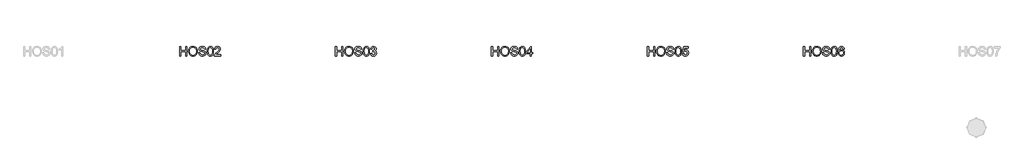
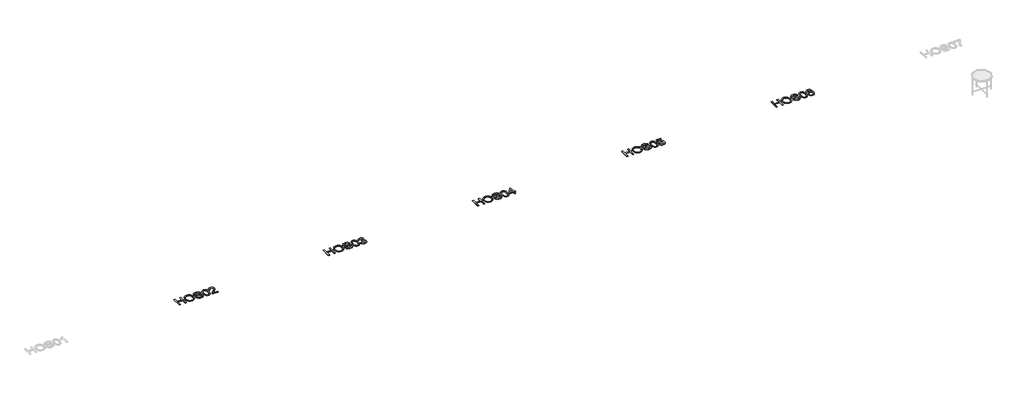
# One storey, part 2 of 6: 5 proxies.
"""IFC4 building model written with IfcOpenShell, lengths in millimetres."""

from ifc_helpers import new_model, si_unit, origin, origin_with_axes, place, context, project, spatial, polyline, outline, extrude, element, save

model = new_model("IFC4")

# Units and contexts
model_context = context("Model", 3, world=origin())
ifc_project = project(units=[si_unit("LENGTHUNIT", "METRE", prefix="MILLI")], contexts=[model_context])

# Site, building, storey
site = spatial("IfcSite", under=ifc_project)
building = spatial("IfcBuilding", under=site)
storey = spatial("IfcBuildingStorey", under=building, Name="Marelli - Linha HOSPITALITY - Planta Baixa", Elevation=0.0)

# Proxies
placement = place(None, origin())
element("IfcBuildingElementProxy", 1, Name="300mm Arial", ObjectType="300mm Arial", at=placement, inside=storey, context=model_context, shape_type="SweptSolid", body=[
    extrude(outline(polyline([(252.0864583, -4780.5663201), (252.0864583, -4479.1973896), (289.7575746, -4479.1973896), (289.7575746, -4601.6285176), (449.8598189, -4601.6285176), (449.8598189, -4479.1973896), (487.5309352, -4479.1973896), (487.5309352, -4780.5663201), (449.8598189, -4780.5663201), (449.8598189, -4639.2996339), (289.7575746, -4639.2996339), (289.7575746, -4780.5663201), (252.0864583, -4780.5663201)])), origin_with_axes(), (0.0, 0.0, 1.0), 10.0),
    extrude(outline(polyline([(539.3287202, -4633.8549804), (541.8395148, -4598.5061192), (549.3718986, -4567.213157), (561.9258717, -4539.9760937), (579.501434, -4516.7949295), (601.0455234, -4498.2858666), (625.5050775, -4485.0651074), (652.8800965, -4477.1326519), (683.1705803, -4474.4885001), (722.6995006, -4479.454907), (758.1449309, -4494.3541278), (787.5754905, -4518.1376988), (809.059799, -4549.7571563), (822.1931862, -4587.68579), (826.570982, -4630.3968896), (821.96326, -4673.6782064), (808.140094, -4712.140269), (785.8648392, -4743.8149087), (755.9008507, -4766.733957), (720.7589231, -4780.6398965), (682.9498511, -4785.2752096), (642.8139254, -4780.1524528), (607.1661601, -4764.7841825), (577.8091768, -4740.5591531), (556.5455975, -4708.8661192), (543.6329395, -4672.3998164), (539.3287202, -4633.8549804)]), holes=[polyline([(576.9998365, -4634.2228624), (578.8829324, -4659.1974513), (584.5322203, -4681.3669401), (593.9477001, -4700.7313286), (607.1293719, -4717.2906169), (623.152932, -4730.5527628), (641.0940771, -4740.0257242), (660.952807, -4745.709501), (682.7291219, -4747.6040933), (704.8779172, -4745.6911069), (724.971172, -4739.9521478), (743.008886, -4730.3872159), (758.9910595, -4716.9963113), (772.0761622, -4700.0875351), (781.4226641, -4679.9689885), (787.0305653, -4656.6406715), (788.8998657, -4630.102584), (785.6992923, -4596.7540812), (776.0975722, -4567.9305269), (760.3430258, -4544.358488), (738.6839733, -4526.7645316), (712.5551546, -4515.8108452), (683.3913095, -4512.1596164), (662.371452, -4513.9185522), (642.8691077, -4519.1953595), (624.8842767, -4527.9900385), (608.4169588, -4540.302589), (594.6719678, -4556.7262208), (584.8541171, -4577.8541437), (578.9634066, -4603.6863575), (576.9998365, -4634.2228624)])]), origin_with_axes(), (0.0, 0.0, 1.0), 10.0),
    extrude(outline(polyline([(864.2420983, -4676.9707502), (901.9132146, -4676.9707502), (906.235828, -4697.8756446), (914.0533204, -4714.6786547), (926.2486086, -4728.0143771), (943.7046092, -4738.517408), (965.041765, -4745.332422), (988.8805183, -4747.6040933), (1009.8681861, -4745.884245), (1028.2438917, -4740.7247), (1043.1339155, -4732.5577197), (1053.6645376, -4721.8155654), (1059.9277286, -4709.4823216), (1062.0154589, -4696.5420724), (1060.4519604, -4683.932917), (1055.761465, -4673.0344129), (1046.2333213, -4663.7361954), (1030.1568781, -4655.9279001), (975.3056726, -4641.5437141), (939.2992224, -4632.0247675), (916.2606124, -4622.9656733), (897.5078277, -4610.2921386), (884.2180906, -4594.9330653), (876.2994307, -4577.2195472), (873.6598774, -4557.4826782), (876.9248301, -4535.4189555), (886.7196882, -4514.845155), (902.7869343, -4497.4075484), (924.8690511, -4484.7524077), (951.3749488, -4477.054477), (980.713538, -4474.4885001), (1012.4985423, -4477.1740386), (1040.3104212, -4485.2306543), (1063.1558931, -4498.4928003), (1080.0416767, -4516.7949295), (1090.7286486, -4538.9966079), (1094.9776857, -4563.9574013), (1057.3065694, -4563.9574013), (1050.3903879, -4541.4798114), (1035.9694136, -4525.2562154), (1013.4366414, -4515.4337661), (982.1850659, -4512.1596164), (950.1977265, -4515.3969779), (928.2535655, -4525.1090626), (915.5616366, -4539.4012781), (911.3309937, -4556.3790322), (914.3292319, -4570.8551887), (923.3239467, -4582.4986539), (944.587526, -4592.9097143), (984.8338163, -4603.541504), (1026.3676936, -4613.6398648), (1051.4940338, -4622.4506385), (1072.9691453, -4636.1174547), (1087.9511396, -4652.9848441), (1096.7527163, -4672.868866), (1099.6865752, -4695.5855792), (1096.3112579, -4718.8081301), (1086.185306, -4740.6511236), (1069.7225867, -4759.4498935), (1047.3369673, -4773.539774), (1020.4172023, -4782.3413507), (990.3520462, -4785.2752096), (953.4442851, -4782.1114244), (923.0664293, -4772.620069), (898.8689911, -4756.764355), (880.5024825, -4734.5074943), (868.7118645, -4707.3945912), (864.2420983, -4676.9707502)])), origin_with_axes(), (0.0, 0.0, 1.0), 10.0),
    extrude(outline(polyline([(1142.066581, -4632.309876), (1144.8348931, -4584.0713494), (1153.1398291, -4545.6000897), (1166.8986157, -4516.3074859), (1186.0284795, -4495.6049266), (1210.6673761, -4483.2992739), (1240.9532614, -4479.1973896), (1264.1666152, -4481.6254108), (1284.951948, -4488.9094743), (1302.3343722, -4500.7644716), (1315.3390008, -4516.9052941), (1325.16145, -4537.1939862), (1332.9973365, -4561.4925919), (1338.1292904, -4592.3486943), (1339.8399417, -4632.309876), (1337.0992208, -4680.2724911), (1328.8770582, -4718.6517803), (1315.201045, -4747.9719753), (1296.0987724, -4768.757308), (1271.4046935, -4781.1457342), (1240.9532614, -4785.2752096), (1220.2047168, -4783.4817849), (1201.8106171, -4778.1015107), (1185.7709621, -4769.1343871), (1172.0857519, -4756.580414), (1158.9523646, -4733.8866934), (1149.5713738, -4705.6103636), (1143.9427792, -4671.7514244), (1142.066581, -4632.309876)]), holes=[polyline([(1179.7376974, -4632.2362996), (1184.1522813, -4691.492892), (1189.6705112, -4711.7608907), (1197.3960331, -4725.788691), (1217.1145081, -4742.1502427), (1240.9532614, -4747.6040933), (1264.7920146, -4742.1318486), (1284.5104896, -4725.7151146), (1292.2360115, -4711.6643216), (1297.7542414, -4691.4009215), (1302.1688253, -4632.2362996), (1297.9013942, -4574.3132795), (1292.5671053, -4554.1119594), (1285.0991008, -4539.750766), (1265.417414, -4522.589071), (1240.511803, -4516.8685059), (1216.9305671, -4521.9084893), (1197.9846443, -4537.0284393), (1190.001605, -4552.6634241), (1184.2994341, -4573.7430624), (1179.7376974, -4632.2362996)])]), origin_with_axes(), (0.0, 0.0, 1.0), 10.0),
    extrude(outline(polyline([(1565.8666395, -4742.8952038), (1565.8666395, -4780.5663201), (1368.0932789, -4780.5663201), (1372.1399808, -4754.5938512), (1381.4290012, -4734.2959621), (1395.0222409, -4714.6050783), (1414.6855336, -4693.9944896), (1442.1847127, -4670.9374855), (1482.8356732, -4634.8298677), (1507.2262495, -4608.1768171), (1519.4215376, -4586.5453558), (1523.4866336, -4565.5025057), (1519.6514638, -4546.6393564), (1508.1459544, -4530.9583863), (1490.4600275, -4520.390976), (1468.0836052, -4516.8685059), (1444.5851427, -4520.3082026), (1426.3289987, -4530.6272925), (1414.5475778, -4547.0164354), (1410.4732847, -4568.6662908), (1372.8021684, -4563.9574013), (1381.934839, -4527.5186897), (1390.4811976, -4512.9827524), (1401.680905, -4500.9024273), (1415.276444, -4491.4064733), (1431.0102971, -4484.623649), (1468.8929456, -4479.1973896), (1489.0827693, -4480.7057058), (1507.0515055, -4485.2306543), (1522.7991542, -4492.7722352), (1536.3257153, -4503.3304485), (1547.1897304, -4516.1235449), (1554.9497413, -4530.3697751), (1559.6057478, -4546.0691393), (1561.15775, -4563.2216373), (1559.4838869, -4581.238658), (1554.4622976, -4598.942979), (1545.5503563, -4616.9508027), (1532.2054369, -4635.8783314), (1510.9326606, -4658.4754829), (1478.2371482, -4687.4921753), (1434.9006492, -4723.7285518), (1417.904501, -4742.8952038), (1565.8666395, -4742.8952038)])), origin_with_axes(), (0.0, 0.0, 1.0), 10.0),
])
element("IfcBuildingElementProxy", 2, Name="300mm Arial", ObjectType="300mm Arial", at=placement, inside=storey, context=model_context, shape_type="SweptSolid", body=[
    extrude(outline(polyline([(5252.0864583, -4780.5663201), (5252.0864583, -4479.1973896), (5289.7575746, -4479.1973896), (5289.7575746, -4601.6285176), (5449.8598189, -4601.6285176), (5449.8598189, -4479.1973896), (5487.5309352, -4479.1973896), (5487.5309352, -4780.5663201), (5449.8598189, -4780.5663201), (5449.8598189, -4639.2996339), (5289.7575746, -4639.2996339), (5289.7575746, -4780.5663201), (5252.0864583, -4780.5663201)])), origin_with_axes(), (0.0, 0.0, 1.0), 10.0),
    extrude(outline(polyline([(5539.3287202, -4633.8549804), (5541.8395148, -4598.5061192), (5549.3718986, -4567.213157), (5561.9258717, -4539.9760937), (5579.501434, -4516.7949295), (5601.0455234, -4498.2858666), (5625.5050775, -4485.0651074), (5652.8800965, -4477.1326519), (5683.1705803, -4474.4885001), (5722.6995006, -4479.454907), (5758.1449309, -4494.3541278), (5787.5754905, -4518.1376988), (5809.059799, -4549.7571563), (5822.1931862, -4587.68579), (5826.570982, -4630.3968896), (5821.96326, -4673.6782064), (5808.140094, -4712.140269), (5785.8648392, -4743.8149087), (5755.9008507, -4766.733957), (5720.7589231, -4780.6398965), (5682.9498511, -4785.2752096), (5642.8139254, -4780.1524528), (5607.1661601, -4764.7841825), (5577.8091768, -4740.5591531), (5556.5455975, -4708.8661192), (5543.6329395, -4672.3998164), (5539.3287202, -4633.8549804)]), holes=[polyline([(5576.9998365, -4634.2228624), (5578.8829324, -4659.1974513), (5584.5322203, -4681.3669401), (5593.9477001, -4700.7313286), (5607.1293719, -4717.2906169), (5623.152932, -4730.5527628), (5641.0940771, -4740.0257242), (5660.952807, -4745.709501), (5682.7291219, -4747.6040933), (5704.8779172, -4745.6911069), (5724.971172, -4739.9521478), (5743.008886, -4730.3872159), (5758.9910595, -4716.9963113), (5772.0761622, -4700.0875351), (5781.4226641, -4679.9689885), (5787.0305653, -4656.6406715), (5788.8998657, -4630.102584), (5785.6992923, -4596.7540812), (5776.0975722, -4567.9305269), (5760.3430258, -4544.358488), (5738.6839733, -4526.7645316), (5712.5551546, -4515.8108452), (5683.3913095, -4512.1596164), (5662.371452, -4513.9185522), (5642.8691077, -4519.1953595), (5624.8842767, -4527.9900385), (5608.4169588, -4540.302589), (5594.6719678, -4556.7262208), (5584.8541171, -4577.8541437), (5578.9634066, -4603.6863575), (5576.9998365, -4634.2228624)])]), origin_with_axes(), (0.0, 0.0, 1.0), 10.0),
    extrude(outline(polyline([(5864.2420983, -4676.9707502), (5901.9132146, -4676.9707502), (5906.235828, -4697.8756446), (5914.0533204, -4714.6786547), (5926.2486086, -4728.0143771), (5943.7046092, -4738.517408), (5965.041765, -4745.332422), (5988.8805183, -4747.6040933), (6009.8681861, -4745.884245), (6028.2438917, -4740.7247), (6043.1339155, -4732.5577197), (6053.6645376, -4721.8155654), (6059.9277286, -4709.4823216), (6062.0154589, -4696.5420724), (6060.4519604, -4683.932917), (6055.761465, -4673.0344129), (6046.2333213, -4663.7361954), (6030.1568781, -4655.9279001), (5975.3056726, -4641.5437141), (5939.2992224, -4632.0247675), (5916.2606124, -4622.9656733), (5897.5078277, -4610.2921386), (5884.2180906, -4594.9330653), (5876.2994307, -4577.2195472), (5873.6598774, -4557.4826782), (5876.9248301, -4535.4189555), (5886.7196882, -4514.845155), (5902.7869343, -4497.4075484), (5924.8690511, -4484.7524077), (5951.3749488, -4477.054477), (5980.713538, -4474.4885001), (6012.4985423, -4477.1740386), (6040.3104212, -4485.2306543), (6063.1558931, -4498.4928003), (6080.0416767, -4516.7949295), (6090.7286486, -4538.9966079), (6094.9776857, -4563.9574013), (6057.3065694, -4563.9574013), (6050.3903879, -4541.4798114), (6035.9694136, -4525.2562154), (6013.4366414, -4515.4337661), (5982.1850659, -4512.1596164), (5950.1977265, -4515.3969779), (5928.2535655, -4525.1090626), (5915.5616366, -4539.4012781), (5911.3309937, -4556.3790322), (5914.3292319, -4570.8551887), (5923.3239467, -4582.4986539), (5944.587526, -4592.9097143), (5984.8338163, -4603.541504), (6026.3676936, -4613.6398648), (6051.4940338, -4622.4506385), (6072.9691453, -4636.1174547), (6087.9511396, -4652.9848441), (6096.7527163, -4672.868866), (6099.6865752, -4695.5855792), (6096.3112579, -4718.8081301), (6086.185306, -4740.6511236), (6069.7225867, -4759.4498935), (6047.3369673, -4773.539774), (6020.4172023, -4782.3413507), (5990.3520462, -4785.2752096), (5953.4442851, -4782.1114244), (5923.0664293, -4772.620069), (5898.8689911, -4756.764355), (5880.5024825, -4734.5074943), (5868.7118645, -4707.3945912), (5864.2420983, -4676.9707502)])), origin_with_axes(), (0.0, 0.0, 1.0), 10.0),
    extrude(outline(polyline([(6142.066581, -4632.309876), (6144.8348931, -4584.0713494), (6153.1398291, -4545.6000897), (6166.8986157, -4516.3074859), (6186.0284795, -4495.6049266), (6210.6673761, -4483.2992739), (6240.9532614, -4479.1973896), (6264.1666152, -4481.6254108), (6284.951948, -4488.9094743), (6302.3343722, -4500.7644716), (6315.3390008, -4516.9052941), (6325.16145, -4537.1939862), (6332.9973365, -4561.4925919), (6338.1292904, -4592.3486943), (6339.8399417, -4632.309876), (6337.0992208, -4680.2724911), (6328.8770582, -4718.6517803), (6315.201045, -4747.9719753), (6296.0987724, -4768.757308), (6271.4046935, -4781.1457342), (6240.9532614, -4785.2752096), (6220.2047168, -4783.4817849), (6201.8106171, -4778.1015107), (6185.7709621, -4769.1343871), (6172.0857519, -4756.580414), (6158.9523646, -4733.8866934), (6149.5713738, -4705.6103636), (6143.9427792, -4671.7514244), (6142.066581, -4632.309876)]), holes=[polyline([(6179.7376974, -4632.2362996), (6184.1522813, -4691.492892), (6189.6705112, -4711.7608907), (6197.3960331, -4725.788691), (6217.1145081, -4742.1502427), (6240.9532614, -4747.6040933), (6264.7920146, -4742.1318486), (6284.5104896, -4725.7151146), (6292.2360115, -4711.6643216), (6297.7542414, -4691.4009215), (6302.1688253, -4632.2362996), (6297.9013942, -4574.3132795), (6292.5671053, -4554.1119594), (6285.0991008, -4539.750766), (6265.417414, -4522.589071), (6240.511803, -4516.8685059), (6216.9305671, -4521.9084893), (6197.9846443, -4537.0284393), (6190.001605, -4552.6634241), (6184.2994341, -4573.7430624), (6179.7376974, -4632.2362996)])]), origin_with_axes(), (0.0, 0.0, 1.0), 10.0),
    extrude(outline(polyline([(6372.8021684, -4700.5151979), (6410.4732847, -4695.8063084), (6418.9069795, -4719.4795148), (6431.2586175, -4735.4639875), (6448.135204, -4744.5690668), (6470.1437443, -4747.6040933), (6495.9690604, -4743.4286327), (6515.9082645, -4730.9022507), (6528.6553757, -4712.2138454), (6532.9044127, -4689.5523145), (6528.6921639, -4668.0404148), (6516.0554173, -4650.5936112), (6496.9255536, -4639.0329195), (6473.2339531, -4635.1793556), (6446.8200259, -4639.2996339), (6451.0138806, -4601.6285176), (6457.0471453, -4602.069976), (6479.6167057, -4599.3660433), (6499.7950332, -4591.2542454), (6514.0320664, -4577.5322469), (6518.7777441, -4557.997713), (6515.3380475, -4541.7281317), (6505.0189575, -4528.5303652), (6489.2736081, -4519.7839707), (6469.5551332, -4516.8685059), (6449.79987, -4519.8115619), (6433.6498504, -4528.6407298), (6421.8592325, -4543.3560096), (6415.1821743, -4563.9574013), (6377.511058, -4559.2485118), (6388.6027001, -4525.4217623), (6408.3395692, -4500.1666633), (6435.3421076, -4484.4397081), (6468.230758, -4479.1973896), (6491.9131614, -4481.7817606), (6513.6641844, -4489.5348737), (6532.0031018, -4501.76695), (6545.4491888, -4517.7882109), (6553.6989425, -4536.24669), (6556.4488604, -4555.790421), (6553.8368982, -4574.0005798), (6546.0010118, -4590.5184814), (6533.0515655, -4604.5899677), (6515.0989242, -4615.4608806), (6538.68016, -4624.9890243), (6556.1545548, -4641.2126203), (6566.9702855, -4663.2487518), (6570.575529, -4690.2145021), (6568.7729073, -4709.3259717), (6563.3650419, -4726.9291252), (6554.351933, -4743.0239625), (6541.7335806, -4757.6104836), (6526.3607117, -4769.7138012), (6509.0840535, -4778.3590281), (6489.903606, -4783.5461642), (6468.8193692, -4785.2752096), (6449.7630818, -4783.7990831), (6432.3990516, -4779.3707036), (6416.7272786, -4771.9900711), (6402.7477628, -4761.6571855), (6391.0261228, -4748.9790523), (6382.127977, -4734.5626766), (6376.0533256, -4718.4080585), (6372.8021684, -4700.5151979)])), origin_with_axes(), (0.0, 0.0, 1.0), 10.0),
])
element("IfcBuildingElementProxy", 3, Name="300mm Arial", ObjectType="300mm Arial", at=placement, inside=storey, context=model_context, shape_type="SweptSolid", body=[
    extrude(outline(polyline([(15252.0864583, -4780.5663201), (15252.0864583, -4479.1973896), (15289.7575746, -4479.1973896), (15289.7575746, -4601.6285176), (15449.8598189, -4601.6285176), (15449.8598189, -4479.1973896), (15487.5309352, -4479.1973896), (15487.5309352, -4780.5663201), (15449.8598189, -4780.5663201), (15449.8598189, -4639.2996339), (15289.7575746, -4639.2996339), (15289.7575746, -4780.5663201), (15252.0864583, -4780.5663201)])), origin_with_axes(), (0.0, 0.0, 1.0), 10.0),
    extrude(outline(polyline([(15539.3287202, -4633.8549804), (15541.8395148, -4598.5061192), (15549.3718986, -4567.213157), (15561.9258717, -4539.9760937), (15579.501434, -4516.7949295), (15601.0455234, -4498.2858666), (15625.5050775, -4485.0651074), (15652.8800965, -4477.1326519), (15683.1705803, -4474.4885001), (15722.6995006, -4479.454907), (15758.1449309, -4494.3541278), (15787.5754905, -4518.1376988), (15809.059799, -4549.7571563), (15822.1931862, -4587.68579), (15826.570982, -4630.3968896), (15821.96326, -4673.6782064), (15808.140094, -4712.140269), (15785.8648392, -4743.8149087), (15755.9008507, -4766.733957), (15720.7589231, -4780.6398965), (15682.9498511, -4785.2752096), (15642.8139254, -4780.1524528), (15607.1661601, -4764.7841825), (15577.8091768, -4740.5591531), (15556.5455975, -4708.8661192), (15543.6329395, -4672.3998164), (15539.3287202, -4633.8549804)]), holes=[polyline([(15576.9998365, -4634.2228624), (15578.8829324, -4659.1974513), (15584.5322203, -4681.3669401), (15593.9477001, -4700.7313286), (15607.1293719, -4717.2906169), (15623.152932, -4730.5527628), (15641.0940771, -4740.0257242), (15660.952807, -4745.709501), (15682.7291219, -4747.6040933), (15704.8779172, -4745.6911069), (15724.971172, -4739.9521478), (15743.008886, -4730.3872159), (15758.9910595, -4716.9963113), (15772.0761622, -4700.0875351), (15781.4226641, -4679.9689885), (15787.0305653, -4656.6406715), (15788.8998657, -4630.102584), (15785.6992923, -4596.7540812), (15776.0975722, -4567.9305269), (15760.3430258, -4544.358488), (15738.6839733, -4526.7645316), (15712.5551546, -4515.8108452), (15683.3913095, -4512.1596164), (15662.371452, -4513.9185522), (15642.8691077, -4519.1953595), (15624.8842767, -4527.9900385), (15608.4169588, -4540.302589), (15594.6719678, -4556.7262208), (15584.8541171, -4577.8541437), (15578.9634066, -4603.6863575), (15576.9998365, -4634.2228624)])]), origin_with_axes(), (0.0, 0.0, 1.0), 10.0),
    extrude(outline(polyline([(15864.2420983, -4676.9707502), (15901.9132146, -4676.9707502), (15906.235828, -4697.8756446), (15914.0533204, -4714.6786547), (15926.2486086, -4728.0143771), (15943.7046092, -4738.517408), (15965.041765, -4745.332422), (15988.8805183, -4747.6040933), (16009.8681861, -4745.884245), (16028.2438917, -4740.7247), (16043.1339155, -4732.5577197), (16053.6645376, -4721.8155654), (16059.9277286, -4709.4823216), (16062.0154589, -4696.5420724), (16060.4519604, -4683.932917), (16055.761465, -4673.0344129), (16046.2333213, -4663.7361954), (16030.1568781, -4655.9279001), (15975.3056726, -4641.5437141), (15939.2992224, -4632.0247675), (15916.2606124, -4622.9656733), (15897.5078277, -4610.2921386), (15884.2180906, -4594.9330653), (15876.2994307, -4577.2195472), (15873.6598774, -4557.4826782), (15876.9248301, -4535.4189555), (15886.7196882, -4514.845155), (15902.7869343, -4497.4075484), (15924.8690511, -4484.7524077), (15951.3749488, -4477.054477), (15980.713538, -4474.4885001), (16012.4985423, -4477.1740386), (16040.3104212, -4485.2306543), (16063.1558931, -4498.4928003), (16080.0416767, -4516.7949295), (16090.7286486, -4538.9966079), (16094.9776857, -4563.9574013), (16057.3065694, -4563.9574013), (16050.3903879, -4541.4798114), (16035.9694136, -4525.2562154), (16013.4366414, -4515.4337661), (15982.1850659, -4512.1596164), (15950.1977265, -4515.3969779), (15928.2535655, -4525.1090626), (15915.5616366, -4539.4012781), (15911.3309937, -4556.3790322), (15914.3292319, -4570.8551887), (15923.3239467, -4582.4986539), (15944.587526, -4592.9097143), (15984.8338163, -4603.541504), (16026.3676936, -4613.6398648), (16051.4940338, -4622.4506385), (16072.9691453, -4636.1174547), (16087.9511396, -4652.9848441), (16096.7527163, -4672.868866), (16099.6865752, -4695.5855792), (16096.3112579, -4718.8081301), (16086.185306, -4740.6511236), (16069.7225867, -4759.4498935), (16047.3369673, -4773.539774), (16020.4172023, -4782.3413507), (15990.3520462, -4785.2752096), (15953.4442851, -4782.1114244), (15923.0664293, -4772.620069), (15898.8689911, -4756.764355), (15880.5024825, -4734.5074943), (15868.7118645, -4707.3945912), (15864.2420983, -4676.9707502)])), origin_with_axes(), (0.0, 0.0, 1.0), 10.0),
    extrude(outline(polyline([(16142.066581, -4632.309876), (16144.8348931, -4584.0713494), (16153.1398291, -4545.6000897), (16166.8986157, -4516.3074859), (16186.0284795, -4495.6049266), (16210.6673761, -4483.2992739), (16240.9532614, -4479.1973896), (16264.1666152, -4481.6254108), (16284.951948, -4488.9094743), (16302.3343722, -4500.7644716), (16315.3390008, -4516.9052941), (16325.16145, -4537.1939862), (16332.9973365, -4561.4925919), (16338.1292904, -4592.3486943), (16339.8399417, -4632.309876), (16337.0992208, -4680.2724911), (16328.8770582, -4718.6517803), (16315.201045, -4747.9719753), (16296.0987724, -4768.757308), (16271.4046935, -4781.1457342), (16240.9532614, -4785.2752096), (16220.2047168, -4783.4817849), (16201.8106171, -4778.1015107), (16185.7709621, -4769.1343871), (16172.0857519, -4756.580414), (16158.9523646, -4733.8866934), (16149.5713738, -4705.6103636), (16143.9427792, -4671.7514244), (16142.066581, -4632.309876)]), holes=[polyline([(16179.7376974, -4632.2362996), (16184.1522813, -4691.492892), (16189.6705112, -4711.7608907), (16197.3960331, -4725.788691), (16217.1145081, -4742.1502427), (16240.9532614, -4747.6040933), (16264.7920146, -4742.1318486), (16284.5104896, -4725.7151146), (16292.2360115, -4711.6643216), (16297.7542414, -4691.4009215), (16302.1688253, -4632.2362996), (16297.9013942, -4574.3132795), (16292.5671053, -4554.1119594), (16285.0991008, -4539.750766), (16265.417414, -4522.589071), (16240.511803, -4516.8685059), (16216.9305671, -4521.9084893), (16197.9846443, -4537.0284393), (16190.001605, -4552.6634241), (16184.2994341, -4573.7430624), (16179.7376974, -4632.2362996)])]), origin_with_axes(), (0.0, 0.0, 1.0), 10.0),
    extrude(outline(polyline([(16372.8021684, -4700.5151979), (16410.4732847, -4695.8063084), (16417.3894662, -4718.421854), (16429.4559957, -4734.6178589), (16446.6176908, -4744.3575347), (16468.8193692, -4747.6040933), (16495.8219076, -4743.0883418), (16516.0554173, -4729.5410873), (16528.6921639, -4708.5258284), (16532.9044127, -4681.6060634), (16528.9588783, -4656.2589939), (16517.1222751, -4636.8716128), (16497.3026326, -4624.56596), (16469.4079804, -4620.4640758), (16451.1334422, -4622.1011506), (16436.335389, -4627.0123753), (16415.1821743, -4644.0085235), (16377.511058, -4639.2996339), (16410.4732847, -4483.9062792), (16556.4488604, -4483.9062792), (16556.4488604, -4521.5773955), (16440.9339139, -4521.5773955), (16424.8206825, -4604.5715736), (16451.7312505, -4588.237613), (16479.9294054, -4582.7929595), (16498.2752207, -4584.4806181), (16515.1265153, -4589.5435941), (16530.4832893, -4597.9818873), (16544.3455428, -4609.7954979), (16555.8211618, -4624.2624574), (16564.0180325, -4640.6607973), (16568.9361549, -4658.9905177), (16570.575529, -4679.2516186), (16564.671023, -4716.9227349), (16557.2903905, -4733.716548), (16546.9575049, -4749.1491977), (16531.304126, -4764.9543279), (16513.038785, -4776.2437066), (16492.1614818, -4783.0173339), (16468.6722164, -4785.2752096), (16431.6724847, -4779.4718711), (16415.9938139, -4772.217698), (16402.1959398, -4762.0618557), (16390.7157223, -4749.5101819), (16381.9900213, -4735.0685143), (16372.8021684, -4700.5151979)])), origin_with_axes(), (0.0, 0.0, 1.0), 10.0),
])
element("IfcBuildingElementProxy", 4, Name="300mm Arial", ObjectType="300mm Arial", at=placement, inside=storey, context=model_context, shape_type="SweptSolid", body=[
    extrude(outline(polyline([(20252.0864583, -4780.5663201), (20252.0864583, -4479.1973896), (20289.7575746, -4479.1973896), (20289.7575746, -4601.6285176), (20449.8598189, -4601.6285176), (20449.8598189, -4479.1973896), (20487.5309352, -4479.1973896), (20487.5309352, -4780.5663201), (20449.8598189, -4780.5663201), (20449.8598189, -4639.2996339), (20289.7575746, -4639.2996339), (20289.7575746, -4780.5663201), (20252.0864583, -4780.5663201)])), origin_with_axes(), (0.0, 0.0, 1.0), 10.0),
    extrude(outline(polyline([(20539.3287202, -4633.8549804), (20541.8395148, -4598.5061192), (20549.3718986, -4567.213157), (20561.9258717, -4539.9760937), (20579.501434, -4516.7949295), (20601.0455234, -4498.2858666), (20625.5050775, -4485.0651074), (20652.8800965, -4477.1326519), (20683.1705803, -4474.4885001), (20722.6995006, -4479.454907), (20758.1449309, -4494.3541278), (20787.5754905, -4518.1376988), (20809.059799, -4549.7571563), (20822.1931862, -4587.68579), (20826.570982, -4630.3968896), (20821.96326, -4673.6782064), (20808.140094, -4712.140269), (20785.8648392, -4743.8149087), (20755.9008507, -4766.733957), (20720.7589231, -4780.6398965), (20682.9498511, -4785.2752096), (20642.8139254, -4780.1524528), (20607.1661601, -4764.7841825), (20577.8091768, -4740.5591531), (20556.5455975, -4708.8661192), (20543.6329395, -4672.3998164), (20539.3287202, -4633.8549804)]), holes=[polyline([(20576.9998365, -4634.2228624), (20578.8829324, -4659.1974513), (20584.5322203, -4681.3669401), (20593.9477001, -4700.7313286), (20607.1293719, -4717.2906169), (20623.152932, -4730.5527628), (20641.0940771, -4740.0257242), (20660.952807, -4745.709501), (20682.7291219, -4747.6040933), (20704.8779172, -4745.6911069), (20724.971172, -4739.9521478), (20743.008886, -4730.3872159), (20758.9910595, -4716.9963113), (20772.0761622, -4700.0875351), (20781.4226641, -4679.9689885), (20787.0305653, -4656.6406715), (20788.8998657, -4630.102584), (20785.6992923, -4596.7540812), (20776.0975722, -4567.9305269), (20760.3430258, -4544.358488), (20738.6839733, -4526.7645316), (20712.5551546, -4515.8108452), (20683.3913095, -4512.1596164), (20662.371452, -4513.9185522), (20642.8691077, -4519.1953595), (20624.8842767, -4527.9900385), (20608.4169588, -4540.302589), (20594.6719678, -4556.7262208), (20584.8541171, -4577.8541437), (20578.9634066, -4603.6863575), (20576.9998365, -4634.2228624)])]), origin_with_axes(), (0.0, 0.0, 1.0), 10.0),
    extrude(outline(polyline([(20864.2420983, -4676.9707502), (20901.9132146, -4676.9707502), (20906.235828, -4697.8756446), (20914.0533204, -4714.6786547), (20926.2486086, -4728.0143771), (20943.7046092, -4738.517408), (20965.041765, -4745.332422), (20988.8805183, -4747.6040933), (21009.8681861, -4745.884245), (21028.2438917, -4740.7247), (21043.1339155, -4732.5577197), (21053.6645376, -4721.8155654), (21059.9277286, -4709.4823216), (21062.0154589, -4696.5420724), (21060.4519604, -4683.932917), (21055.761465, -4673.0344129), (21046.2333213, -4663.7361954), (21030.1568781, -4655.9279001), (20975.3056726, -4641.5437141), (20939.2992224, -4632.0247675), (20916.2606124, -4622.9656733), (20897.5078277, -4610.2921386), (20884.2180906, -4594.9330653), (20876.2994307, -4577.2195472), (20873.6598774, -4557.4826782), (20876.9248301, -4535.4189555), (20886.7196882, -4514.845155), (20902.7869343, -4497.4075484), (20924.8690511, -4484.7524077), (20951.3749488, -4477.054477), (20980.713538, -4474.4885001), (21012.4985423, -4477.1740386), (21040.3104212, -4485.2306543), (21063.1558931, -4498.4928003), (21080.0416767, -4516.7949295), (21090.7286486, -4538.9966079), (21094.9776857, -4563.9574013), (21057.3065694, -4563.9574013), (21050.3903879, -4541.4798114), (21035.9694136, -4525.2562154), (21013.4366414, -4515.4337661), (20982.1850659, -4512.1596164), (20950.1977265, -4515.3969779), (20928.2535655, -4525.1090626), (20915.5616366, -4539.4012781), (20911.3309937, -4556.3790322), (20914.3292319, -4570.8551887), (20923.3239467, -4582.4986539), (20944.587526, -4592.9097143), (20984.8338163, -4603.541504), (21026.3676936, -4613.6398648), (21051.4940338, -4622.4506385), (21072.9691453, -4636.1174547), (21087.9511396, -4652.9848441), (21096.7527163, -4672.868866), (21099.6865752, -4695.5855792), (21096.3112579, -4718.8081301), (21086.185306, -4740.6511236), (21069.7225867, -4759.4498935), (21047.3369673, -4773.539774), (21020.4172023, -4782.3413507), (20990.3520462, -4785.2752096), (20953.4442851, -4782.1114244), (20923.0664293, -4772.620069), (20898.8689911, -4756.764355), (20880.5024825, -4734.5074943), (20868.7118645, -4707.3945912), (20864.2420983, -4676.9707502)])), origin_with_axes(), (0.0, 0.0, 1.0), 10.0),
    extrude(outline(polyline([(21142.066581, -4632.309876), (21144.8348931, -4584.0713494), (21153.1398291, -4545.6000897), (21166.8986157, -4516.3074859), (21186.0284795, -4495.6049266), (21210.6673761, -4483.2992739), (21240.9532614, -4479.1973896), (21264.1666152, -4481.6254108), (21284.951948, -4488.9094743), (21302.3343722, -4500.7644716), (21315.3390008, -4516.9052941), (21325.16145, -4537.1939862), (21332.9973365, -4561.4925919), (21338.1292904, -4592.3486943), (21339.8399417, -4632.309876), (21337.0992208, -4680.2724911), (21328.8770582, -4718.6517803), (21315.201045, -4747.9719753), (21296.0987724, -4768.757308), (21271.4046935, -4781.1457342), (21240.9532614, -4785.2752096), (21220.2047168, -4783.4817849), (21201.8106171, -4778.1015107), (21185.7709621, -4769.1343871), (21172.0857519, -4756.580414), (21158.9523646, -4733.8866934), (21149.5713738, -4705.6103636), (21143.9427792, -4671.7514244), (21142.066581, -4632.309876)]), holes=[polyline([(21179.7376974, -4632.2362996), (21184.1522813, -4691.492892), (21189.6705112, -4711.7608907), (21197.3960331, -4725.788691), (21217.1145081, -4742.1502427), (21240.9532614, -4747.6040933), (21264.7920146, -4742.1318486), (21284.5104896, -4725.7151146), (21292.2360115, -4711.6643216), (21297.7542414, -4691.4009215), (21302.1688253, -4632.2362996), (21297.9013942, -4574.3132795), (21292.5671053, -4554.1119594), (21285.0991008, -4539.750766), (21265.417414, -4522.589071), (21240.511803, -4516.8685059), (21216.9305671, -4521.9084893), (21197.9846443, -4537.0284393), (21190.001605, -4552.6634241), (21184.2994341, -4573.7430624), (21179.7376974, -4632.2362996)])]), origin_with_axes(), (0.0, 0.0, 1.0), 10.0),
    extrude(outline(polyline([(21565.8666395, -4559.2485118), (21528.1955232, -4563.9574013), (21522.1254703, -4545.2873901), (21513.9217018, -4532.5402789), (21496.8335831, -4520.7864492), (21476.1770091, -4516.8685059), (21458.6658261, -4519.1493743), (21442.1847127, -4525.9919794), (21428.0304529, -4540.4037566), (21416.4697613, -4560.2417932), (21408.6614659, -4588.3019923), (21405.7643952, -4627.3802573), (21420.8751481, -4609.7495127), (21438.9841394, -4597.3242983), (21459.0796933, -4589.9574613), (21480.1501346, -4587.501849), (21498.2499288, -4589.1803106), (21514.9517714, -4594.2156954), (21530.2556624, -4602.6080034), (21544.1616018, -4614.3572346), (21555.717695, -4628.7644133), (21563.9720472, -4645.1305635), (21568.9246586, -4663.4556854), (21570.575529, -4683.7397789), (21567.4669262, -4710.7147262), (21558.1411176, -4735.7215049), (21543.3706555, -4756.9299019), (21523.928092, -4772.5097044), (21500.696344, -4782.0838333), (21474.5583283, -4785.2752096), (21452.1014317, -4783.1598881), (21431.8196375, -4776.8139237), (21413.7129455, -4766.2373164), (21397.7813559, -4751.4300661), (21384.7928222, -4731.7667734), (21375.5152981, -4706.622039), (21369.9487837, -4675.9958629), (21368.0932789, -4639.8882451), (21370.1534181, -4599.4074301), (21376.3338356, -4564.8587122), (21386.6345314, -4536.2420915), (21401.0555057, -4513.557568), (21416.6858919, -4498.5249899), (21434.8086787, -4487.7874342), (21455.423866, -4481.3449008), (21478.5314538, -4479.1973896), (21511.5856511, -4484.5132844), (21538.0547607, -4500.4609689), (21556.5960132, -4525.7896443), (21565.8666395, -4559.2485118)]), holes=[polyline([(21405.7643952, -4683.1511677), (21407.944096, -4699.8438133), (21414.4831985, -4715.7823007), (21424.6367415, -4729.485905), (21437.6597642, -4739.4739012), (21453.3775224, -4745.5715453), (21471.6152723, -4747.6040933), (21496.4748982, -4743.3918445), (21516.0186291, -4730.7550979), (21528.6829668, -4710.8894702), (21532.9044127, -4684.9905777), (21528.7381491, -4660.1309519), (21516.2393583, -4641.1758321), (21496.3645336, -4629.173682), (21470.0701679, -4625.1729653), (21445.2473303, -4629.173682), (21424.4895887, -4641.1758321), (21410.4456936, -4659.6710994), (21405.7643952, -4683.1511677)])]), origin_with_axes(), (0.0, 0.0, 1.0), 10.0),
])
element("IfcBuildingElementProxy", 5, Name="300mm Arial", ObjectType="300mm Arial", at=placement, inside=storey, context=model_context, shape_type="SweptSolid", body=[
    extrude(outline(polyline([(10252.0864583, -4780.5663201), (10252.0864583, -4479.1973896), (10289.7575746, -4479.1973896), (10289.7575746, -4601.6285176), (10449.8598189, -4601.6285176), (10449.8598189, -4479.1973896), (10487.5309352, -4479.1973896), (10487.5309352, -4780.5663201), (10449.8598189, -4780.5663201), (10449.8598189, -4639.2996339), (10289.7575746, -4639.2996339), (10289.7575746, -4780.5663201), (10252.0864583, -4780.5663201)])), origin_with_axes(), (0.0, 0.0, 1.0), 10.0),
    extrude(outline(polyline([(10539.3287202, -4633.8549804), (10541.8395148, -4598.5061192), (10549.3718986, -4567.213157), (10561.9258717, -4539.9760937), (10579.501434, -4516.7949295), (10601.0455234, -4498.2858666), (10625.5050775, -4485.0651074), (10652.8800965, -4477.1326519), (10683.1705803, -4474.4885001), (10722.6995006, -4479.454907), (10758.1449309, -4494.3541278), (10787.5754905, -4518.1376988), (10809.059799, -4549.7571563), (10822.1931862, -4587.68579), (10826.570982, -4630.3968896), (10821.96326, -4673.6782064), (10808.140094, -4712.140269), (10785.8648392, -4743.8149087), (10755.9008507, -4766.733957), (10720.7589231, -4780.6398965), (10682.9498511, -4785.2752096), (10642.8139254, -4780.1524528), (10607.1661601, -4764.7841825), (10577.8091768, -4740.5591531), (10556.5455975, -4708.8661192), (10543.6329395, -4672.3998164), (10539.3287202, -4633.8549804)]), holes=[polyline([(10576.9998365, -4634.2228624), (10578.8829324, -4659.1974513), (10584.5322203, -4681.3669401), (10593.9477001, -4700.7313286), (10607.1293719, -4717.2906169), (10623.152932, -4730.5527628), (10641.0940771, -4740.0257242), (10660.952807, -4745.709501), (10682.7291219, -4747.6040933), (10704.8779172, -4745.6911069), (10724.971172, -4739.9521478), (10743.008886, -4730.3872159), (10758.9910595, -4716.9963113), (10772.0761622, -4700.0875351), (10781.4226641, -4679.9689885), (10787.0305653, -4656.6406715), (10788.8998657, -4630.102584), (10785.6992923, -4596.7540812), (10776.0975722, -4567.9305269), (10760.3430258, -4544.358488), (10738.6839733, -4526.7645316), (10712.5551546, -4515.8108452), (10683.3913095, -4512.1596164), (10662.371452, -4513.9185522), (10642.8691077, -4519.1953595), (10624.8842767, -4527.9900385), (10608.4169588, -4540.302589), (10594.6719678, -4556.7262208), (10584.8541171, -4577.8541437), (10578.9634066, -4603.6863575), (10576.9998365, -4634.2228624)])]), origin_with_axes(), (0.0, 0.0, 1.0), 10.0),
    extrude(outline(polyline([(10864.2420983, -4676.9707502), (10901.9132146, -4676.9707502), (10906.235828, -4697.8756446), (10914.0533204, -4714.6786547), (10926.2486086, -4728.0143771), (10943.7046092, -4738.517408), (10965.041765, -4745.332422), (10988.8805183, -4747.6040933), (11009.8681861, -4745.884245), (11028.2438917, -4740.7247), (11043.1339155, -4732.5577197), (11053.6645376, -4721.8155654), (11059.9277286, -4709.4823216), (11062.0154589, -4696.5420724), (11060.4519604, -4683.932917), (11055.761465, -4673.0344129), (11046.2333213, -4663.7361954), (11030.1568781, -4655.9279001), (10975.3056726, -4641.5437141), (10939.2992224, -4632.0247675), (10916.2606124, -4622.9656733), (10897.5078277, -4610.2921386), (10884.2180906, -4594.9330653), (10876.2994307, -4577.2195472), (10873.6598774, -4557.4826782), (10876.9248301, -4535.4189555), (10886.7196882, -4514.845155), (10902.7869343, -4497.4075484), (10924.8690511, -4484.7524077), (10951.3749488, -4477.054477), (10980.713538, -4474.4885001), (11012.4985423, -4477.1740386), (11040.3104212, -4485.2306543), (11063.1558931, -4498.4928003), (11080.0416767, -4516.7949295), (11090.7286486, -4538.9966079), (11094.9776857, -4563.9574013), (11057.3065694, -4563.9574013), (11050.3903879, -4541.4798114), (11035.9694136, -4525.2562154), (11013.4366414, -4515.4337661), (10982.1850659, -4512.1596164), (10950.1977265, -4515.3969779), (10928.2535655, -4525.1090626), (10915.5616366, -4539.4012781), (10911.3309937, -4556.3790322), (10914.3292319, -4570.8551887), (10923.3239467, -4582.4986539), (10944.587526, -4592.9097143), (10984.8338163, -4603.541504), (11026.3676936, -4613.6398648), (11051.4940338, -4622.4506385), (11072.9691453, -4636.1174547), (11087.9511396, -4652.9848441), (11096.7527163, -4672.868866), (11099.6865752, -4695.5855792), (11096.3112579, -4718.8081301), (11086.185306, -4740.6511236), (11069.7225867, -4759.4498935), (11047.3369673, -4773.539774), (11020.4172023, -4782.3413507), (10990.3520462, -4785.2752096), (10953.4442851, -4782.1114244), (10923.0664293, -4772.620069), (10898.8689911, -4756.764355), (10880.5024825, -4734.5074943), (10868.7118645, -4707.3945912), (10864.2420983, -4676.9707502)])), origin_with_axes(), (0.0, 0.0, 1.0), 10.0),
    extrude(outline(polyline([(11142.066581, -4632.309876), (11144.8348931, -4584.0713494), (11153.1398291, -4545.6000897), (11166.8986157, -4516.3074859), (11186.0284795, -4495.6049266), (11210.6673761, -4483.2992739), (11240.9532614, -4479.1973896), (11264.1666152, -4481.6254108), (11284.951948, -4488.9094743), (11302.3343722, -4500.7644716), (11315.3390008, -4516.9052941), (11325.16145, -4537.1939862), (11332.9973365, -4561.4925919), (11338.1292904, -4592.3486943), (11339.8399417, -4632.309876), (11337.0992208, -4680.2724911), (11328.8770582, -4718.6517803), (11315.201045, -4747.9719753), (11296.0987724, -4768.757308), (11271.4046935, -4781.1457342), (11240.9532614, -4785.2752096), (11220.2047168, -4783.4817849), (11201.8106171, -4778.1015107), (11185.7709621, -4769.1343871), (11172.0857519, -4756.580414), (11158.9523646, -4733.8866934), (11149.5713738, -4705.6103636), (11143.9427792, -4671.7514244), (11142.066581, -4632.309876)]), holes=[polyline([(11179.7376974, -4632.2362996), (11184.1522813, -4691.492892), (11189.6705112, -4711.7608907), (11197.3960331, -4725.788691), (11217.1145081, -4742.1502427), (11240.9532614, -4747.6040933), (11264.7920146, -4742.1318486), (11284.5104896, -4725.7151146), (11292.2360115, -4711.6643216), (11297.7542414, -4691.4009215), (11302.1688253, -4632.2362996), (11297.9013942, -4574.3132795), (11292.5671053, -4554.1119594), (11285.0991008, -4539.750766), (11265.417414, -4522.589071), (11240.511803, -4516.8685059), (11216.9305671, -4521.9084893), (11197.9846443, -4537.0284393), (11190.001605, -4552.6634241), (11184.2994341, -4573.7430624), (11179.7376974, -4632.2362996)])]), origin_with_axes(), (0.0, 0.0, 1.0), 10.0),
    extrude(outline(polyline([(11495.2332964, -4780.5663201), (11495.2332964, -4709.932977), (11358.6754998, -4709.932977), (11358.6754998, -4672.2618607), (11504.6510755, -4483.9062792), (11532.9044127, -4483.9062792), (11532.9044127, -4672.2618607), (11570.575529, -4672.2618607), (11570.575529, -4709.932977), (11532.9044127, -4709.932977), (11532.9044127, -4780.5663201), (11495.2332964, -4780.5663201)]), holes=[polyline([(11495.2332964, -4672.2618607), (11495.2332964, -4555.8639974), (11405.0286312, -4672.2618607), (11495.2332964, -4672.2618607)])]), origin_with_axes(), (0.0, 0.0, 1.0), 10.0),
])

save(model, "model.ifc")
